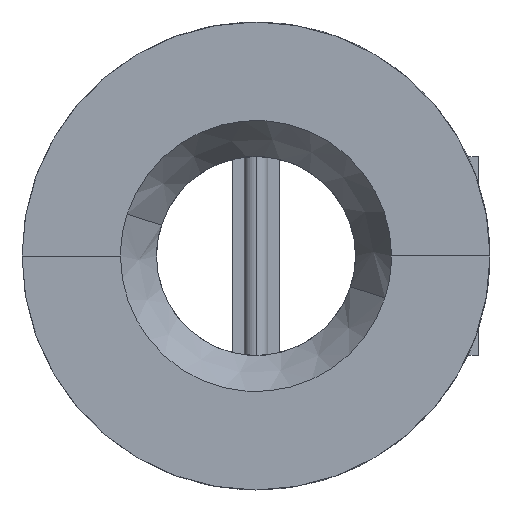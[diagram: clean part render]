
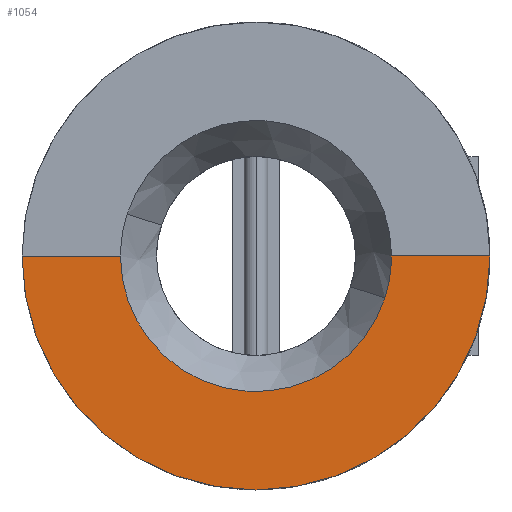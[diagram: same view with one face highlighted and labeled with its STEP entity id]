
A CAD part, left-side view. The second image highlights one B-rep face of the part: STEP entity #1054.
In plain terms, the highlighted planar face has unit normal (-1, 0, 0).
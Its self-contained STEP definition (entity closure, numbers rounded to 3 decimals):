
#27 = DIRECTION ( 'NONE',  ( 1., 0., 0. ) ) ;
#43 = VECTOR ( 'NONE', #1423, 1000. ) ;
#56 = DIRECTION ( 'NONE',  ( 1., 0., 0. ) ) ;
#91 = CARTESIAN_POINT ( 'NONE',  ( -33.5, -34.75, 0. ) ) ;
#99 = DIRECTION ( 'NONE',  ( 0., -1., 0. ) ) ;
#104 = CIRCLE ( 'NONE', #731, 34.75 ) ;
#116 = EDGE_CURVE ( 'NONE', #1701, #1694, #104, .T. ) ;
#200 = CARTESIAN_POINT ( 'NONE',  ( -33.5, 34.75, 0. ) ) ;
#241 = CARTESIAN_POINT ( 'NONE',  ( -33.5, 0., 0. ) ) ;
#245 = ORIENTED_EDGE ( 'NONE', *, *, #776, .T. ) ;
#292 = EDGE_CURVE ( 'NONE', #687, #1391, #1705, .T. ) ;
#305 = PLANE ( 'NONE',  #563 ) ;
#323 = VECTOR ( 'NONE', #917, 1000. ) ;
#338 = CARTESIAN_POINT ( 'NONE',  ( -33.5, -33.049, -10.738 ) ) ;
#346 = CARTESIAN_POINT ( 'NONE',  ( -33.5, 34.75, 0. ) ) ;
#355 = LINE ( 'NONE', #346, #43 ) ;
#405 = EDGE_LOOP ( 'NONE', ( #1272, #1681, #1048, #245, #760 ) ) ;
#479 = DIRECTION ( 'NONE',  ( 1., 0., 0. ) ) ;
#501 = LINE ( 'NONE', #1575, #323 ) ;
#534 = VERTEX_POINT ( 'NONE', #200 ) ;
#563 = AXIS2_PLACEMENT_3D ( 'NONE', #1499, #27, #1638 ) ;
#687 = VERTEX_POINT ( 'NONE', #1418 ) ;
#707 = CARTESIAN_POINT ( 'NONE',  ( -33.5, 0., 0. ) ) ;
#714 = CIRCLE ( 'NONE', #855, 34.75 ) ;
#731 = AXIS2_PLACEMENT_3D ( 'NONE', #1670, #479, #99 ) ;
#760 = ORIENTED_EDGE ( 'NONE', *, *, #1482, .T. ) ;
#776 = EDGE_CURVE ( 'NONE', #1694, #534, #714, .T. ) ;
#855 = AXIS2_PLACEMENT_3D ( 'NONE', #241, #1576, #1462 ) ;
#917 = DIRECTION ( 'NONE',  ( 0., 1., 0. ) ) ;
#998 = AXIS2_PLACEMENT_3D ( 'NONE', #707, #56, #1116 ) ;
#1033 = EDGE_CURVE ( 'NONE', #687, #1701, #501, .T. ) ;
#1048 = ORIENTED_EDGE ( 'NONE', *, *, #116, .T. ) ;
#1054 = ADVANCED_FACE ( 'NONE', ( #1082 ), #305, .F. ) ;
#1082 = FACE_OUTER_BOUND ( 'NONE', #405, .T. ) ;
#1095 = CARTESIAN_POINT ( 'NONE',  ( -33.5, 60., 0. ) ) ;
#1116 = DIRECTION ( 'NONE',  ( 0., -1., 0. ) ) ;
#1272 = ORIENTED_EDGE ( 'NONE', *, *, #292, .F. ) ;
#1391 = VERTEX_POINT ( 'NONE', #1095 ) ;
#1418 = CARTESIAN_POINT ( 'NONE',  ( -33.5, -60., 0. ) ) ;
#1423 = DIRECTION ( 'NONE',  ( 0., 1., 0. ) ) ;
#1462 = DIRECTION ( 'NONE',  ( 0., -1., 0. ) ) ;
#1482 = EDGE_CURVE ( 'NONE', #534, #1391, #355, .T. ) ;
#1499 = CARTESIAN_POINT ( 'NONE',  ( -33.5, 0., 0. ) ) ;
#1575 = CARTESIAN_POINT ( 'NONE',  ( -33.5, -60., 0. ) ) ;
#1576 = DIRECTION ( 'NONE',  ( 1., 0., 0. ) ) ;
#1638 = DIRECTION ( 'NONE',  ( 0., -1., 0. ) ) ;
#1670 = CARTESIAN_POINT ( 'NONE',  ( -33.5, 0., 0. ) ) ;
#1681 = ORIENTED_EDGE ( 'NONE', *, *, #1033, .T. ) ;
#1694 = VERTEX_POINT ( 'NONE', #338 ) ;
#1701 = VERTEX_POINT ( 'NONE', #91 ) ;
#1705 = CIRCLE ( 'NONE', #998, 60. ) ;
